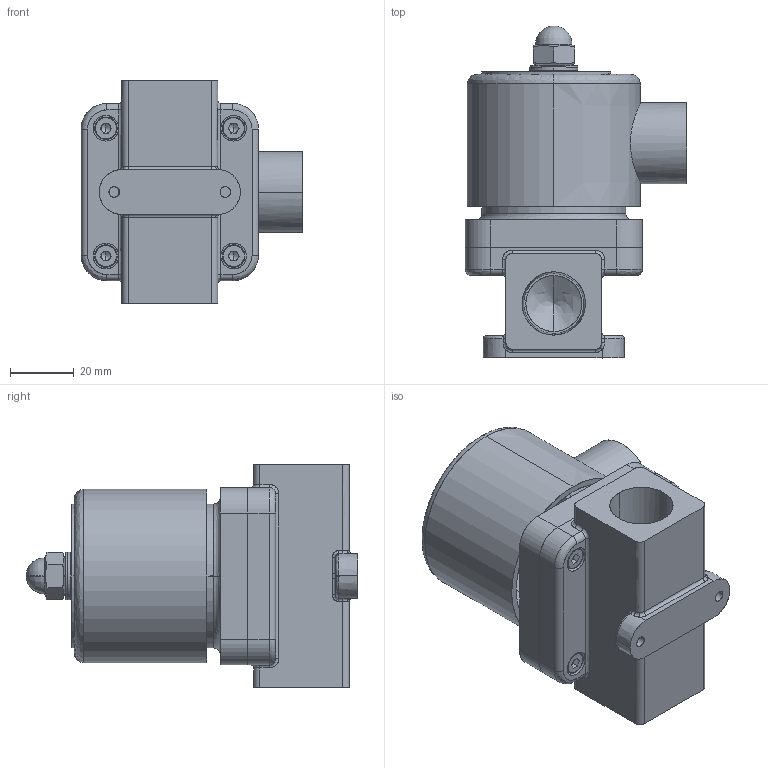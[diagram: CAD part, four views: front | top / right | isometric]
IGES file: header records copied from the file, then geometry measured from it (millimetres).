
Start section: SolidWorks IGES file using analytic representation for surfaces
Global section: file name: C:\Users\Toshiba\Desktop\AS2202-04-#.IGS; native system: SolidWorks 2014; preprocessor: SolidWorks 2014; author: Toshiba; date: 160126.085025; units: millimetre
Bounding box: 69.4 x 103.95 x 70 mm (x, y, z)
Surface area: 50926.9 mm2 (no closed solid volume)
Topology: 0 solids, 0 shells, 411 faces, 5160 edges, 5143 vertices
Faces by surface type: bspline 245, revolution 166
